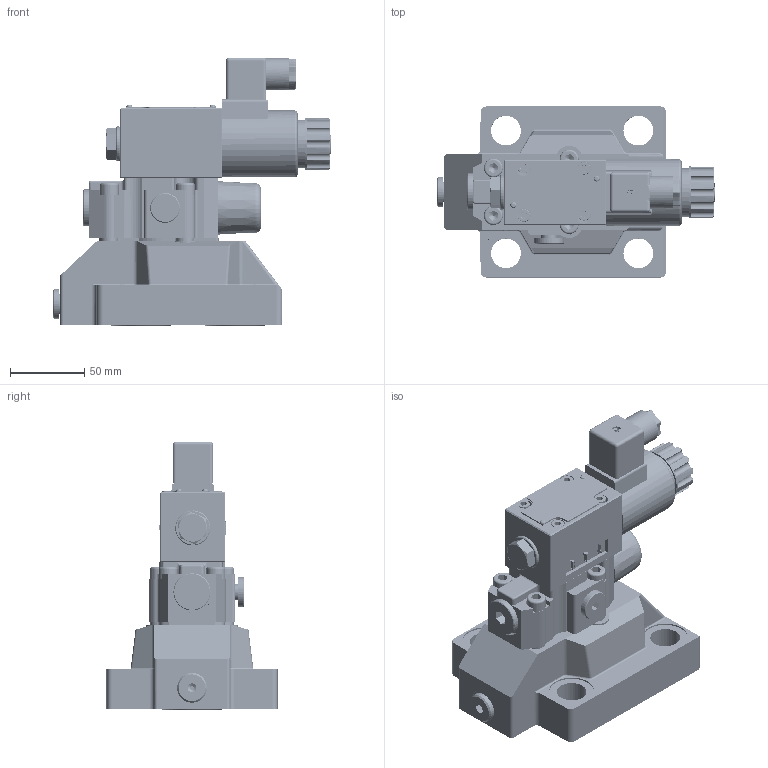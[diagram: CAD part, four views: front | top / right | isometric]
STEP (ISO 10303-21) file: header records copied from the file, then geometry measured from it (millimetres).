
FILE_DESCRIPTION(/* description */ (''),/* implementation_level */ '2;1');
FILE_NAME(/* name */ 'DBW30-5XJ电磁溢流阀.prt.stp',/* time_stamp */ '2022-03-30T20:09:46+08:00',/* author */ (''),/* organization */ (''),/* preprocessor_version */ 'ST-DEVELOPER v16.7',/* originating_system */ 'SIEMENS PLM Software NX 12.0',/* authorisation */ '');
FILE_SCHEMA (('AUTOMOTIVE_DESIGN { 1 0 10303 214 3 1 1 1 }'));
Products named in the file (1): DBW30-5XJ电磁溢流阀
Bounding box: 187.2 x 115 x 180.63 mm (x, y, z)
Volume: 854185.7 mm3; surface area: 207737.1 mm2
Topology: 38 solids, 44 shells, 1742 faces, 4510 edges, 2894 vertices
Faces by surface type: cylinder 725, plane 713, bspline 130, cone 96, torus 51, sphere 18, extrusion 6, revolution 3
Full cylindrical faces by diameter (mm): 1 x1, 1.2 x1, 1.5 x1, 1.8 x4, 2 x5, 2.55 x19, 3 x47, 3.4 x7, 3.5 x1, 4 x1, 4.2 x11, 4.3 x48, 5 x117, 5.3 x4, 5.5 x2, 6 x5, 6.5 x1, 7 x49, 8 x1, 8.1 x1, 8.4 x4, 8.5 x4, 8.7 x1, 8.8 x1, 9.4 x4, 9.5 x1, 9.653 x4, 11 x3, 11.5 x6, 12 x2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
Entity records: 186383 total; most frequent: CARTESIAN_POINT 152972, ORIENTED_EDGE 6400, DIRECTION 6123, EDGE_CURVE 3200, AXIS2_PLACEMENT_3D 2247, VERTEX_POINT 2171, EDGE_LOOP 1800, VECTOR 1626
